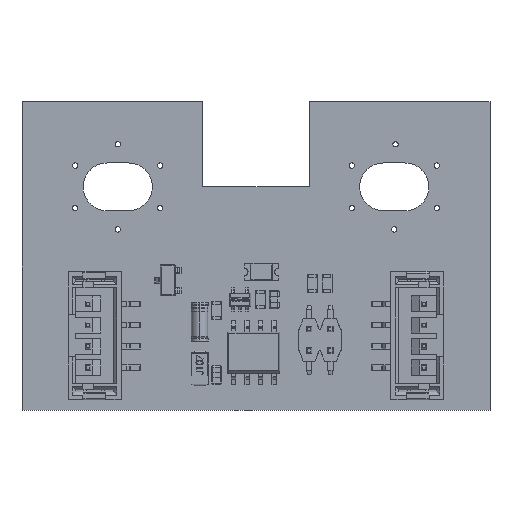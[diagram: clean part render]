
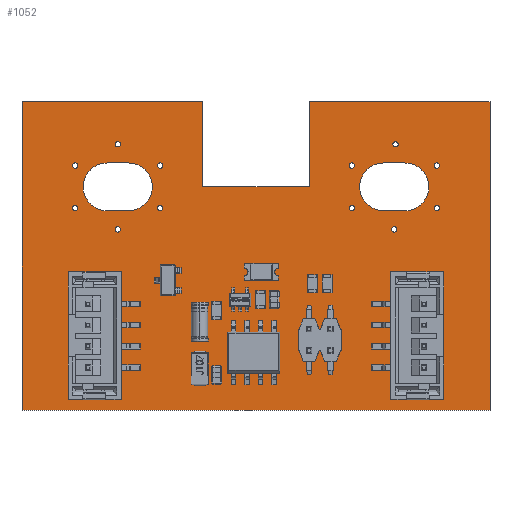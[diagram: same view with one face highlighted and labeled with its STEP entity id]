
A CAD part, top view. The second image highlights one B-rep face of the part: STEP entity #1052.
In plain terms, the highlighted planar face has unit normal (0, 0, 1).
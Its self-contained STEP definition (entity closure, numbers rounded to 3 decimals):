
#95 = VERTEX_POINT('',#96);
#96 = CARTESIAN_POINT('',(-22.,-21.,1.646));
#102 = EDGE_CURVE('',#95,#103,#105,.T.);
#103 = VERTEX_POINT('',#104);
#104 = CARTESIAN_POINT('',(-22.,8.,1.646));
#105 = LINE('',#106,#107);
#106 = CARTESIAN_POINT('',(-22.,-21.,1.646));
#107 = VECTOR('',#108,1.);
#108 = DIRECTION('',(0.,1.,0.));
#133 = EDGE_CURVE('',#103,#134,#136,.T.);
#134 = VERTEX_POINT('',#135);
#135 = CARTESIAN_POINT('',(-5.,8.,1.646));
#136 = LINE('',#137,#138);
#137 = CARTESIAN_POINT('',(-22.,8.,1.646));
#138 = VECTOR('',#139,1.);
#139 = DIRECTION('',(1.,0.,0.));
#164 = EDGE_CURVE('',#134,#165,#167,.T.);
#165 = VERTEX_POINT('',#166);
#166 = CARTESIAN_POINT('',(-5.,0.,1.646));
#167 = LINE('',#168,#169);
#168 = CARTESIAN_POINT('',(-5.,8.,1.646));
#169 = VECTOR('',#170,1.);
#170 = DIRECTION('',(0.,-1.,0.));
#195 = EDGE_CURVE('',#165,#196,#198,.T.);
#196 = VERTEX_POINT('',#197);
#197 = CARTESIAN_POINT('',(5.,0.,1.646));
#198 = LINE('',#199,#200);
#199 = CARTESIAN_POINT('',(-5.,0.,1.646));
#200 = VECTOR('',#201,1.);
#201 = DIRECTION('',(1.,0.,0.));
#226 = EDGE_CURVE('',#196,#227,#229,.T.);
#227 = VERTEX_POINT('',#228);
#228 = CARTESIAN_POINT('',(5.,8.,1.646));
#229 = LINE('',#230,#231);
#230 = CARTESIAN_POINT('',(5.,0.,1.646));
#231 = VECTOR('',#232,1.);
#232 = DIRECTION('',(0.,1.,0.));
#257 = EDGE_CURVE('',#227,#258,#260,.T.);
#258 = VERTEX_POINT('',#259);
#259 = CARTESIAN_POINT('',(22.,8.,1.646));
#260 = LINE('',#261,#262);
#261 = CARTESIAN_POINT('',(5.,8.,1.646));
#262 = VECTOR('',#263,1.);
#263 = DIRECTION('',(1.,0.,0.));
#288 = EDGE_CURVE('',#258,#289,#291,.T.);
#289 = VERTEX_POINT('',#290);
#290 = CARTESIAN_POINT('',(22.,-21.,1.646));
#291 = LINE('',#292,#293);
#292 = CARTESIAN_POINT('',(22.,8.,1.646));
#293 = VECTOR('',#294,1.);
#294 = DIRECTION('',(0.,-1.,0.));
#319 = EDGE_CURVE('',#289,#95,#320,.T.);
#320 = LINE('',#321,#322);
#321 = CARTESIAN_POINT('',(22.,-21.,1.646));
#322 = VECTOR('',#323,1.);
#323 = DIRECTION('',(-1.,0.,0.));
#343 = VERTEX_POINT('',#344);
#344 = CARTESIAN_POINT('',(-16.75,-2.,1.646));
#350 = EDGE_CURVE('',#343,#343,#351,.T.);
#351 = CIRCLE('',#352,0.25);
#352 = AXIS2_PLACEMENT_3D('',#353,#354,#355);
#353 = CARTESIAN_POINT('',(-17.,-2.,1.646));
#354 = DIRECTION('',(0.,0.,1.));
#355 = DIRECTION('',(1.,0.,0.));
#376 = VERTEX_POINT('',#377);
#377 = CARTESIAN_POINT('',(-12.75,-4.,1.646));
#383 = EDGE_CURVE('',#376,#376,#384,.T.);
#384 = CIRCLE('',#385,0.25);
#385 = AXIS2_PLACEMENT_3D('',#386,#387,#388);
#386 = CARTESIAN_POINT('',(-13.,-4.,1.646));
#387 = DIRECTION('',(0.,0.,1.));
#388 = DIRECTION('',(1.,0.,0.));
#409 = VERTEX_POINT('',#410);
#410 = CARTESIAN_POINT('',(-14.,2.25,1.646));
#416 = EDGE_CURVE('',#409,#417,#419,.T.);
#417 = VERTEX_POINT('',#418);
#418 = CARTESIAN_POINT('',(-14.,-2.25,1.646));
#419 = CIRCLE('',#420,2.25);
#420 = AXIS2_PLACEMENT_3D('',#421,#422,#423);
#421 = CARTESIAN_POINT('',(-14.,0.,1.646));
#422 = DIRECTION('',(0.,0.,1.));
#423 = DIRECTION('',(0.,1.,0.));
#451 = VERTEX_POINT('',#452);
#452 = CARTESIAN_POINT('',(-12.,2.25,1.646));
#458 = EDGE_CURVE('',#451,#409,#459,.T.);
#459 = LINE('',#460,#461);
#460 = CARTESIAN_POINT('',(-12.,2.25,1.646));
#461 = VECTOR('',#462,1.);
#462 = DIRECTION('',(-1.,0.,0.));
#482 = VERTEX_POINT('',#483);
#483 = CARTESIAN_POINT('',(-12.,-2.25,1.646));
#489 = EDGE_CURVE('',#482,#451,#490,.T.);
#490 = CIRCLE('',#491,2.25);
#491 = AXIS2_PLACEMENT_3D('',#492,#493,#494);
#492 = CARTESIAN_POINT('',(-12.,0.,1.646));
#493 = DIRECTION('',(0.,0.,1.));
#494 = DIRECTION('',(0.,-1.,0.));
#513 = EDGE_CURVE('',#417,#482,#514,.T.);
#514 = LINE('',#515,#516);
#515 = CARTESIAN_POINT('',(-14.,-2.25,1.646));
#516 = VECTOR('',#517,1.);
#517 = DIRECTION('',(1.,0.,0.));
#537 = VERTEX_POINT('',#538);
#538 = CARTESIAN_POINT('',(-16.75,2.,1.646));
#544 = EDGE_CURVE('',#537,#537,#545,.T.);
#545 = CIRCLE('',#546,0.25);
#546 = AXIS2_PLACEMENT_3D('',#547,#548,#549);
#547 = CARTESIAN_POINT('',(-17.,2.,1.646));
#548 = DIRECTION('',(0.,0.,1.));
#549 = DIRECTION('',(1.,0.,0.));
#570 = VERTEX_POINT('',#571);
#571 = CARTESIAN_POINT('',(-12.75,4.,1.646));
#577 = EDGE_CURVE('',#570,#570,#578,.T.);
#578 = CIRCLE('',#579,0.25);
#579 = AXIS2_PLACEMENT_3D('',#580,#581,#582);
#580 = CARTESIAN_POINT('',(-13.,4.,1.646));
#581 = DIRECTION('',(0.,0.,1.));
#582 = DIRECTION('',(1.,0.,0.));
#603 = VERTEX_POINT('',#604);
#604 = CARTESIAN_POINT('',(-8.75,-2.,1.646));
#610 = EDGE_CURVE('',#603,#603,#611,.T.);
#611 = CIRCLE('',#612,0.25);
#612 = AXIS2_PLACEMENT_3D('',#613,#614,#615);
#613 = CARTESIAN_POINT('',(-9.,-2.,1.646));
#614 = DIRECTION('',(0.,0.,1.));
#615 = DIRECTION('',(1.,0.,0.));
#636 = VERTEX_POINT('',#637);
#637 = CARTESIAN_POINT('',(-8.75,2.,1.646));
#643 = EDGE_CURVE('',#636,#636,#644,.T.);
#644 = CIRCLE('',#645,0.25);
#645 = AXIS2_PLACEMENT_3D('',#646,#647,#648);
#646 = CARTESIAN_POINT('',(-9.,2.,1.646));
#647 = DIRECTION('',(0.,0.,1.));
#648 = DIRECTION('',(1.,0.,0.));
#669 = VERTEX_POINT('',#670);
#670 = CARTESIAN_POINT('',(9.25,-2.,1.646));
#676 = EDGE_CURVE('',#669,#669,#677,.T.);
#677 = CIRCLE('',#678,0.25);
#678 = AXIS2_PLACEMENT_3D('',#679,#680,#681);
#679 = CARTESIAN_POINT('',(9.,-2.,1.646));
#680 = DIRECTION('',(0.,0.,1.));
#681 = DIRECTION('',(1.,0.,0.));
#702 = VERTEX_POINT('',#703);
#703 = CARTESIAN_POINT('',(13.25,-4.,1.646));
#709 = EDGE_CURVE('',#702,#702,#710,.T.);
#710 = CIRCLE('',#711,0.25);
#711 = AXIS2_PLACEMENT_3D('',#712,#713,#714);
#712 = CARTESIAN_POINT('',(13.,-4.,1.646));
#713 = DIRECTION('',(0.,0.,1.));
#714 = DIRECTION('',(1.,0.,0.));
#735 = VERTEX_POINT('',#736);
#736 = CARTESIAN_POINT('',(12.,2.25,1.646));
#742 = EDGE_CURVE('',#735,#743,#745,.T.);
#743 = VERTEX_POINT('',#744);
#744 = CARTESIAN_POINT('',(12.,-2.25,1.646));
#745 = CIRCLE('',#746,2.25);
#746 = AXIS2_PLACEMENT_3D('',#747,#748,#749);
#747 = CARTESIAN_POINT('',(12.,0.,1.646));
#748 = DIRECTION('',(0.,0.,1.));
#749 = DIRECTION('',(0.,1.,0.));
#777 = VERTEX_POINT('',#778);
#778 = CARTESIAN_POINT('',(14.,2.25,1.646));
#784 = EDGE_CURVE('',#777,#735,#785,.T.);
#785 = LINE('',#786,#787);
#786 = CARTESIAN_POINT('',(14.,2.25,1.646));
#787 = VECTOR('',#788,1.);
#788 = DIRECTION('',(-1.,0.,0.));
#808 = VERTEX_POINT('',#809);
#809 = CARTESIAN_POINT('',(14.,-2.25,1.646));
#815 = EDGE_CURVE('',#808,#777,#816,.T.);
#816 = CIRCLE('',#817,2.25);
#817 = AXIS2_PLACEMENT_3D('',#818,#819,#820);
#818 = CARTESIAN_POINT('',(14.,0.,1.646));
#819 = DIRECTION('',(0.,0.,1.));
#820 = DIRECTION('',(0.,-1.,0.));
#839 = EDGE_CURVE('',#743,#808,#840,.T.);
#840 = LINE('',#841,#842);
#841 = CARTESIAN_POINT('',(12.,-2.25,1.646));
#842 = VECTOR('',#843,1.);
#843 = DIRECTION('',(1.,0.,0.));
#863 = VERTEX_POINT('',#864);
#864 = CARTESIAN_POINT('',(9.25,2.,1.646));
#870 = EDGE_CURVE('',#863,#863,#871,.T.);
#871 = CIRCLE('',#872,0.25);
#872 = AXIS2_PLACEMENT_3D('',#873,#874,#875);
#873 = CARTESIAN_POINT('',(9.,2.,1.646));
#874 = DIRECTION('',(0.,0.,1.));
#875 = DIRECTION('',(1.,0.,0.));
#896 = VERTEX_POINT('',#897);
#897 = CARTESIAN_POINT('',(13.375,4.,1.646));
#903 = EDGE_CURVE('',#896,#896,#904,.T.);
#904 = CIRCLE('',#905,0.25);
#905 = AXIS2_PLACEMENT_3D('',#906,#907,#908);
#906 = CARTESIAN_POINT('',(13.125,4.,1.646));
#907 = DIRECTION('',(0.,0.,1.));
#908 = DIRECTION('',(1.,0.,0.));
#929 = VERTEX_POINT('',#930);
#930 = CARTESIAN_POINT('',(17.25,-2.,1.646));
#936 = EDGE_CURVE('',#929,#929,#937,.T.);
#937 = CIRCLE('',#938,0.25);
#938 = AXIS2_PLACEMENT_3D('',#939,#940,#941);
#939 = CARTESIAN_POINT('',(17.,-2.,1.646));
#940 = DIRECTION('',(0.,0.,1.));
#941 = DIRECTION('',(1.,0.,0.));
#962 = VERTEX_POINT('',#963);
#963 = CARTESIAN_POINT('',(17.25,2.,1.646));
#969 = EDGE_CURVE('',#962,#962,#970,.T.);
#970 = CIRCLE('',#971,0.25);
#971 = AXIS2_PLACEMENT_3D('',#972,#973,#974);
#972 = CARTESIAN_POINT('',(17.,2.,1.646));
#973 = DIRECTION('',(0.,0.,1.));
#974 = DIRECTION('',(1.,0.,0.));
#1052 = ADVANCED_FACE('',(#1053,#1063,#1066,#1069,#1075,#1078,#1081,
    #1084,#1087,#1090,#1093,#1099,#1102,#1105,#1108),#1111,.T.);
#1053 = FACE_BOUND('',#1054,.F.);
#1054 = EDGE_LOOP('',(#1055,#1056,#1057,#1058,#1059,#1060,#1061,#1062));
#1055 = ORIENTED_EDGE('',*,*,#102,.T.);
#1056 = ORIENTED_EDGE('',*,*,#133,.T.);
#1057 = ORIENTED_EDGE('',*,*,#164,.T.);
#1058 = ORIENTED_EDGE('',*,*,#195,.T.);
#1059 = ORIENTED_EDGE('',*,*,#226,.T.);
#1060 = ORIENTED_EDGE('',*,*,#257,.T.);
#1061 = ORIENTED_EDGE('',*,*,#288,.T.);
#1062 = ORIENTED_EDGE('',*,*,#319,.T.);
#1063 = FACE_BOUND('',#1064,.T.);
#1064 = EDGE_LOOP('',(#1065));
#1065 = ORIENTED_EDGE('',*,*,#350,.F.);
#1066 = FACE_BOUND('',#1067,.T.);
#1067 = EDGE_LOOP('',(#1068));
#1068 = ORIENTED_EDGE('',*,*,#383,.F.);
#1069 = FACE_BOUND('',#1070,.T.);
#1070 = EDGE_LOOP('',(#1071,#1072,#1073,#1074));
#1071 = ORIENTED_EDGE('',*,*,#416,.F.);
#1072 = ORIENTED_EDGE('',*,*,#458,.F.);
#1073 = ORIENTED_EDGE('',*,*,#489,.F.);
#1074 = ORIENTED_EDGE('',*,*,#513,.F.);
#1075 = FACE_BOUND('',#1076,.T.);
#1076 = EDGE_LOOP('',(#1077));
#1077 = ORIENTED_EDGE('',*,*,#544,.F.);
#1078 = FACE_BOUND('',#1079,.T.);
#1079 = EDGE_LOOP('',(#1080));
#1080 = ORIENTED_EDGE('',*,*,#577,.F.);
#1081 = FACE_BOUND('',#1082,.T.);
#1082 = EDGE_LOOP('',(#1083));
#1083 = ORIENTED_EDGE('',*,*,#610,.F.);
#1084 = FACE_BOUND('',#1085,.T.);
#1085 = EDGE_LOOP('',(#1086));
#1086 = ORIENTED_EDGE('',*,*,#643,.F.);
#1087 = FACE_BOUND('',#1088,.T.);
#1088 = EDGE_LOOP('',(#1089));
#1089 = ORIENTED_EDGE('',*,*,#676,.F.);
#1090 = FACE_BOUND('',#1091,.T.);
#1091 = EDGE_LOOP('',(#1092));
#1092 = ORIENTED_EDGE('',*,*,#709,.F.);
#1093 = FACE_BOUND('',#1094,.T.);
#1094 = EDGE_LOOP('',(#1095,#1096,#1097,#1098));
#1095 = ORIENTED_EDGE('',*,*,#742,.F.);
#1096 = ORIENTED_EDGE('',*,*,#784,.F.);
#1097 = ORIENTED_EDGE('',*,*,#815,.F.);
#1098 = ORIENTED_EDGE('',*,*,#839,.F.);
#1099 = FACE_BOUND('',#1100,.T.);
#1100 = EDGE_LOOP('',(#1101));
#1101 = ORIENTED_EDGE('',*,*,#870,.F.);
#1102 = FACE_BOUND('',#1103,.T.);
#1103 = EDGE_LOOP('',(#1104));
#1104 = ORIENTED_EDGE('',*,*,#903,.F.);
#1105 = FACE_BOUND('',#1106,.T.);
#1106 = EDGE_LOOP('',(#1107));
#1107 = ORIENTED_EDGE('',*,*,#936,.F.);
#1108 = FACE_BOUND('',#1109,.T.);
#1109 = EDGE_LOOP('',(#1110));
#1110 = ORIENTED_EDGE('',*,*,#969,.F.);
#1111 = PLANE('',#1112);
#1112 = AXIS2_PLACEMENT_3D('',#1113,#1114,#1115);
#1113 = CARTESIAN_POINT('',(-22.,-21.,1.646));
#1114 = DIRECTION('',(0.,0.,1.));
#1115 = DIRECTION('',(1.,0.,0.));
